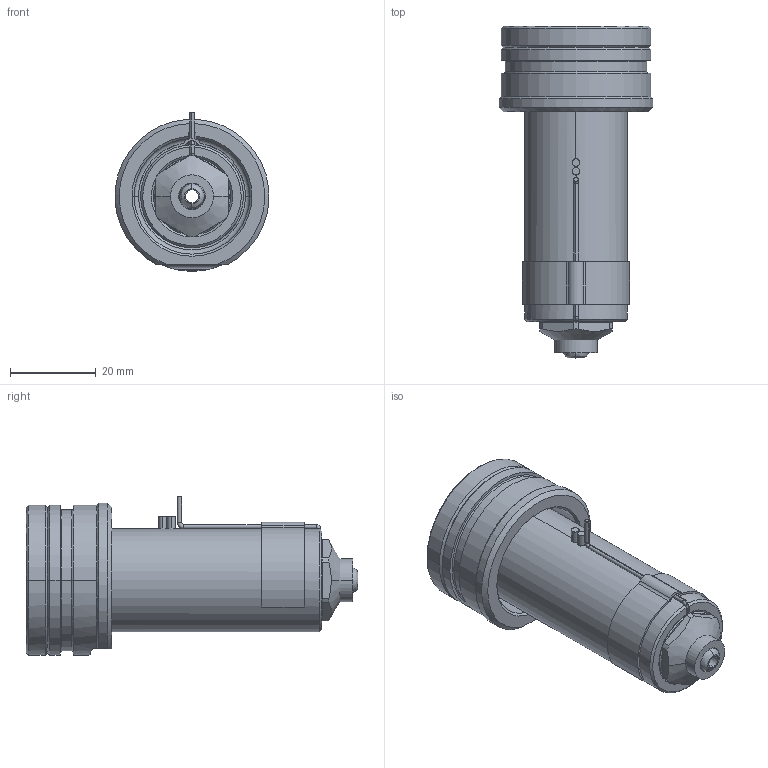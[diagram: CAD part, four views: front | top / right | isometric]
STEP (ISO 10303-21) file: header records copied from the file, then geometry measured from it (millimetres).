
FILE_DESCRIPTION((''),'2;1');
FILE_NAME('EO06_VG-BL_WR_060_SW','2024-02-19T13:02:05',('sundharh'),(''),'CREO PARAMETRIC BY PTC INC, 2023154','CREO PARAMETRIC BY PTC INC, 2023154','');
FILE_SCHEMA(('CONFIG_CONTROL_DESIGN'));
Length unit declared in the file: millimetre
Products named in the file (1): EO06_VG-BL_WR_060_SW
Bounding box: 35.93 x 77.5 x 37 mm (x, y, z)
Volume: 38670.2 mm3; surface area: 12781.5 mm2
Topology: 2 solids, 2 shells, 199 faces, 493 edges, 296 vertices
Faces by surface type: cylinder 76, plane 42, cone 36, torus 27, bspline 16, sphere 2
Entity records: 6771 total; most frequent: CARTESIAN_POINT 1992, DIRECTION 1064, ORIENTED_EDGE 974, EDGE_CURVE 487, AXIS2_PLACEMENT_3D 449, VERTEX_POINT 296, CIRCLE 266, EDGE_LOOP 213
